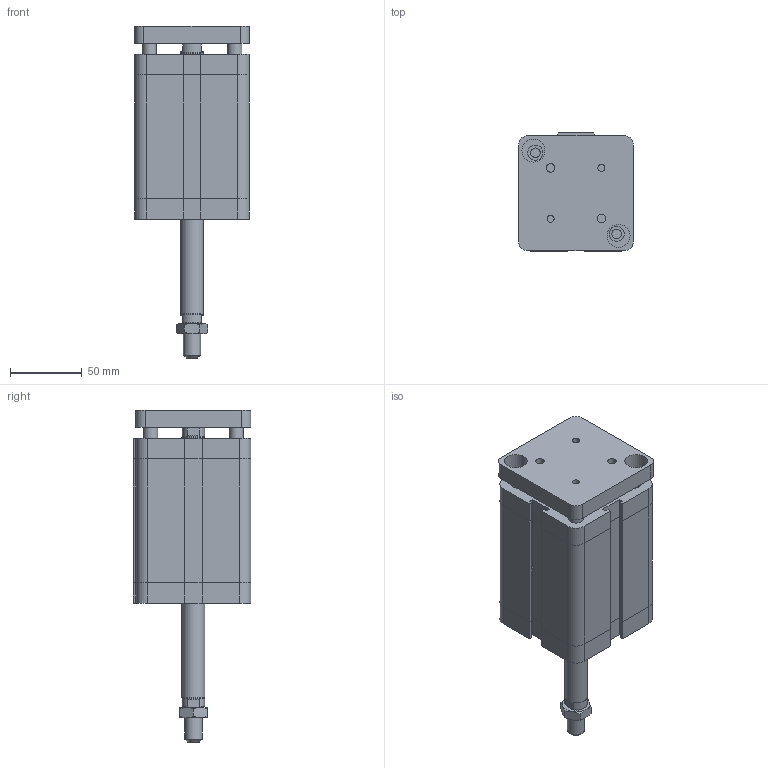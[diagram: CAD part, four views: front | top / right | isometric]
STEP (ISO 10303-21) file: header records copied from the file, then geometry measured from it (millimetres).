
FILE_DESCRIPTION((''),'2;1');
FILE_NAME('I:\Area Tecnica\Disegni\VARIE-3D\Componenti\EUROPE\15##_###_####_09_#\1561_63_0065_09_1.iam.stp','2009-04-20T15:39:26',(''),(''),'Autodesk Inventor 2009','Autodesk Inventor 2009','');
FILE_SCHEMA(('AUTOMOTIVE_DESIGN { 1 0 10303 214 1 1 1 1 }'));
Length unit declared in the file: millimetre
Products named in the file (4): 1561_63_0065_09_1; 1561_63_0065_08_1_C; 1561_63_0065_09_1_SA; DBFM12
Assembly tree (3 placements, depth 2):
  1561_63_0065_09_1
    1561_63_0065_08_1_C
    1561_63_0065_09_1_SA
    DBFM12
Bounding box: 80 x 82 x 231 mm (x, y, z)
Volume: 803082.1 mm3; surface area: 99092.7 mm2
Topology: 3 solids, 3 shells, 209 faces, 470 edges, 287 vertices
Faces by surface type: plane 120, bspline 45, cylinder 23, cone 21
Full cylindrical faces by diameter (mm): 10 x2, 10.8 x1, 12 x1, 15.6 x2, 16 x1
Entity records: 5963 total; most frequent: CARTESIAN_POINT 1453, DIRECTION 838, ORIENTED_EDGE 834, EDGE_CURVE 417, AXIS2_PLACEMENT_3D 282, EDGE_LOOP 282, VECTOR 274, LINE 274
